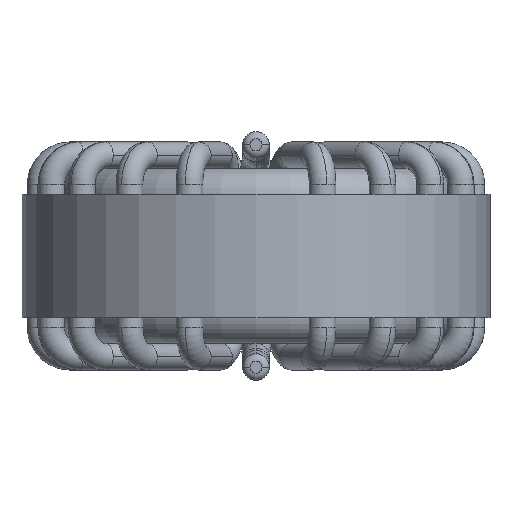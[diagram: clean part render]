
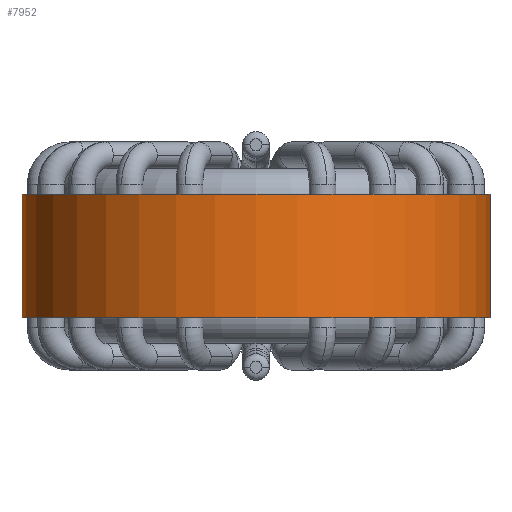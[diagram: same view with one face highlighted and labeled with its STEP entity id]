
A CAD part, front view. The second image highlights one B-rep face of the part: STEP entity #7952.
In plain terms, the highlighted cylindrical face has radius 16.05 mm (diameter 32.1 mm), a partial arc.
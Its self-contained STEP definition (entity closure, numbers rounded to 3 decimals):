
#3028 = EDGE_CURVE ( 'NONE', #16805, #6153, #20663, .T. ) ;
#4710 = CARTESIAN_POINT ( 'NONE',  ( 0., 0., 4.25 ) ) ;
#5163 = DIRECTION ( 'NONE',  ( 0., 0., -1. ) ) ;
#5209 = ORIENTED_EDGE ( 'NONE', *, *, #27170, .T. ) ;
#5214 = CARTESIAN_POINT ( 'NONE',  ( 16.05, 0., -4.25 ) ) ;
#6066 = DIRECTION ( 'NONE',  ( 1., 0., 0. ) ) ;
#6153 = VERTEX_POINT ( 'NONE', #5214 ) ;
#6939 = DIRECTION ( 'NONE',  ( 0., 0., -1. ) ) ;
#7140 = CARTESIAN_POINT ( 'NONE',  ( -16.05, 0., -4.25 ) ) ;
#7952 = ADVANCED_FACE ( 'NONE', ( #25120 ), #12130, .T. ) ;
#8420 = VECTOR ( 'NONE', #6939, 1000. ) ;
#9698 = CARTESIAN_POINT ( 'NONE',  ( -16.05, 0., 4.25 ) ) ;
#10500 = CARTESIAN_POINT ( 'NONE',  ( 16.05, 0., 4.25 ) ) ;
#11590 = ORIENTED_EDGE ( 'NONE', *, *, #27704, .T. ) ;
#12130 = CYLINDRICAL_SURFACE ( 'NONE', #14872, 16.05 ) ;
#13667 = EDGE_LOOP ( 'NONE', ( #24401, #27058, #5209, #11590 ) ) ;
#14458 = DIRECTION ( 'NONE',  ( 1., 0., 0. ) ) ;
#14872 = AXIS2_PLACEMENT_3D ( 'NONE', #21727, #5163, #19077 ) ;
#15036 = DIRECTION ( 'NONE',  ( 0., 0., -1. ) ) ;
#15808 = DIRECTION ( 'NONE',  ( 0., 0., 1. ) ) ;
#16805 = VERTEX_POINT ( 'NONE', #10500 ) ;
#18203 = VECTOR ( 'NONE', #15036, 1000. ) ;
#19077 = DIRECTION ( 'NONE',  ( -1., 0., 0. ) ) ;
#19102 = AXIS2_PLACEMENT_3D ( 'NONE', #29804, #15808, #6066 ) ;
#20663 = LINE ( 'NONE', #28208, #8420 ) ;
#21727 = CARTESIAN_POINT ( 'NONE',  ( 0., 0., 4.25 ) ) ;
#22955 = VERTEX_POINT ( 'NONE', #9698 ) ;
#22981 = LINE ( 'NONE', #29016, #18203 ) ;
#24401 = ORIENTED_EDGE ( 'NONE', *, *, #3028, .F. ) ;
#25120 = FACE_OUTER_BOUND ( 'NONE', #13667, .T. ) ;
#25835 = EDGE_CURVE ( 'NONE', #22955, #16805, #30563, .T. ) ;
#27058 = ORIENTED_EDGE ( 'NONE', *, *, #25835, .F. ) ;
#27170 = EDGE_CURVE ( 'NONE', #22955, #28392, #22981, .T. ) ;
#27704 = EDGE_CURVE ( 'NONE', #28392, #6153, #30387, .T. ) ;
#28208 = CARTESIAN_POINT ( 'NONE',  ( 16.05, 0., 4.25 ) ) ;
#28392 = VERTEX_POINT ( 'NONE', #7140 ) ;
#29016 = CARTESIAN_POINT ( 'NONE',  ( -16.05, 0., 4.25 ) ) ;
#29415 = AXIS2_PLACEMENT_3D ( 'NONE', #4710, #30753, #14458 ) ;
#29804 = CARTESIAN_POINT ( 'NONE',  ( 0., 0., -4.25 ) ) ;
#30387 = CIRCLE ( 'NONE', #19102, 16.05 ) ;
#30563 = CIRCLE ( 'NONE', #29415, 16.05 ) ;
#30753 = DIRECTION ( 'NONE',  ( 0., 0., 1. ) ) ;
